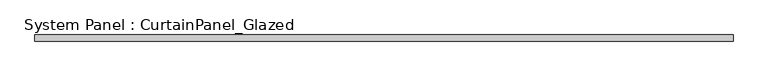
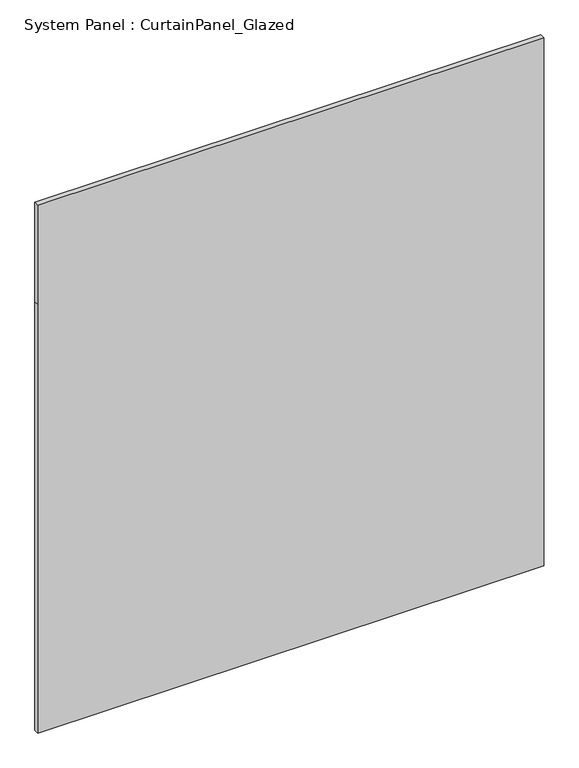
"""IFC4 building model written with IfcOpenShell, lengths in millimetres: plate geometry, System Panel : CurtainPanel_Glazed."""

import ifcopenshell
import ifcopenshell.guid

model = None  # the IFC model being written
_history = None  # IfcOwnerHistory: only IFC2X3 demands one
_inside = {}  # id of a spatial element -> (the spatial element, [elements in it])
_under = {}  # id of a project, library or spatial element -> (it, [spatial elements below it])
_declared = {}  # id of a project -> (the project, [libraries it declares])
_typed = {}  # id of a type object -> (the type object, [elements of that type])
_made_of = {}  # id of a material, layer set ... -> (it, [elements and type objects made of it])


def new_model(schema):
    """Start an empty IFC model of exactly this schema.

    Asked for "IFC4X3", IfcOpenShell would pick the latest addendum, in which some entities
    have other attributes; the version numbers below select the first issue.
    IFC2X3 requires an IfcOwnerHistory on every rooted entity: one is made here for all.
    """
    global model, _history
    if schema == "IFC4X3":
        model = ifcopenshell.file(schema_version=(4, 3, 0, 0))
    else:
        model = ifcopenshell.file(schema=schema)
    _inside.clear()
    _under.clear()
    _declared.clear()
    _typed.clear()
    _made_of.clear()
    _history = None
    if model.schema == "IFC2X3":
        org = make("IfcOrganization", Name="unknown")
        user = make(
            "IfcPersonAndOrganization",
            ThePerson=make("IfcPerson", FamilyName="unknown"),
            TheOrganization=org,
        )
        app = make(
            "IfcApplication",
            ApplicationDeveloper=org,
            Version="unknown",
            ApplicationFullName="unknown",
            ApplicationIdentifier="unknown",
        )
        _history = make(
            "IfcOwnerHistory",
            OwningUser=user,
            OwningApplication=app,
            ChangeAction="ADDED",
            CreationDate=0,
        )
    return model


def make(cls, **values):
    """One entity of the class cls with the attributes given. An attribute that is None is left unset."""
    return model.create_entity(
        cls, **{name: value for name, value in values.items() if value is not None}
    )


def rooted(cls, **values):
    """An entity with a GlobalId (a new one), such as an element, a storey or a relation."""
    return make(cls, GlobalId=ifcopenshell.guid.new(), OwnerHistory=_history, **values)


def si_unit(unit_type, name, prefix=None):
    """IfcSIUnit, for example si_unit("LENGTHUNIT", "METRE", prefix="MILLI")."""
    return make("IfcSIUnit", UnitType=unit_type, Prefix=prefix, Name=name)


def assignment(units):
    """IfcUnitAssignment: the units of a project."""
    return None if units is None else make("IfcUnitAssignment", Units=units)


def point(xyz):
    """IfcCartesianPoint."""
    return None if xyz is None else make("IfcCartesianPoint", Coordinates=xyz)


def direction(xyz):
    """IfcDirection."""
    return None if xyz is None else make("IfcDirection", DirectionRatios=xyz)


def frame(location, z_axis=None, x_axis=None):
    """IfcAxis2Placement3D, a coordinate frame: its origin and axes. An axis left out is left unset."""
    return make(
        "IfcAxis2Placement3D",
        Location=point(location),
        Axis=direction(z_axis),
        RefDirection=direction(x_axis),
    )


def origin():
    """The frame at (0, 0, 0) with its axes left unset."""
    return frame((0.0, 0.0, 0.0))


def place(relative_to, where):
    """IfcLocalPlacement: puts the frame where relative to a parent placement (None: the world)."""
    return make(
        "IfcLocalPlacement", PlacementRelTo=relative_to, RelativePlacement=where
    )


def context(
    kind, dimensions, precision=None, world=None, true_north=None, identifier=None
):
    """IfcGeometricRepresentationContext, for example the 3D "Model" context."""
    return make(
        "IfcGeometricRepresentationContext",
        ContextIdentifier=identifier,
        ContextType=kind,
        CoordinateSpaceDimension=dimensions,
        Precision=precision,
        WorldCoordinateSystem=world,
        TrueNorth=true_north,
    )


def project(units=None, contexts=None):
    """IfcProject with its units and contexts."""
    return rooted(
        "IfcProject",
        Name="project",
        RepresentationContexts=contexts,
        UnitsInContext=assignment(units),
    )


def spatial(cls, under=None, at=None, **own):
    """A site, building, storey or space (cls), placed at a placement, below another one or the project."""
    s = rooted(cls, ObjectPlacement=at, **own)
    if under is not None:
        _under.setdefault(under.id(), (under, []))[1].append(s)
    return s


def polyline(points):
    """IfcPolyline through the points."""
    return make("IfcPolyline", Points=[point(p) for p in points])


def outline(outer, holes=None, kind="AREA"):
    """IfcArbitraryClosedProfileDef: a profile drawn as a closed curve; with holes, ...WithVoids."""
    if holes is None:
        return make("IfcArbitraryClosedProfileDef", ProfileType=kind, OuterCurve=outer)
    return make(
        "IfcArbitraryProfileDefWithVoids",
        ProfileType=kind,
        OuterCurve=outer,
        InnerCurves=holes,
    )


def extrude(swept, where, along, depth):
    """IfcExtrudedAreaSolid: the profile swept, set in the frame where, extruded along a direction by depth."""
    return make(
        "IfcExtrudedAreaSolid",
        SweptArea=swept,
        Position=where,
        ExtrudedDirection=direction(along),
        Depth=depth,
    )


def shape(context_of_items, identifier, shape_type, items):
    """IfcShapeRepresentation: the items that make up one representation, for example the "Body"."""
    return make(
        "IfcShapeRepresentation",
        ContextOfItems=context_of_items,
        RepresentationIdentifier=identifier,
        RepresentationType=shape_type,
        Items=items,
    )


def source(mapping_origin, context_of_items, identifier, shape_type, items):
    """IfcRepresentationMap: a shape defined once, which mapped items show again and again."""
    return make(
        "IfcRepresentationMap",
        MappingOrigin=mapping_origin,
        MappedRepresentation=shape(context_of_items, identifier, shape_type, items),
    )


def transform(
    local_origin,
    x_axis=None,
    y_axis=None,
    z_axis=None,
    scale=None,
    scale2=None,
    scale3=None,
    uniform=True,
):
    """IfcCartesianTransformationOperator3D, or its non-uniform kind. x_axis, y_axis, z_axis: its Axis1, 2, 3."""
    if uniform:
        return make(
            "IfcCartesianTransformationOperator3D",
            Axis1=direction(x_axis),
            Axis2=direction(y_axis),
            LocalOrigin=point(local_origin),
            Scale=scale,
            Axis3=direction(z_axis),
        )
    return make(
        "IfcCartesianTransformationOperator3DnonUniform",
        Axis1=direction(x_axis),
        Axis2=direction(y_axis),
        LocalOrigin=point(local_origin),
        Scale=scale,
        Axis3=direction(z_axis),
        Scale2=scale2,
        Scale3=scale3,
    )


def mapped(mapping_source, mapping_target):
    """IfcMappedItem: shows the shape of a source again, moved by a transform."""
    return make(
        "IfcMappedItem", MappingSource=mapping_source, MappingTarget=mapping_target
    )


def made_of(thing, what):
    """Note that an element or type object is made of a material, layer set ...; save() writes the relation."""
    if what is not None:
        _made_of.setdefault(what.id(), (what, []))[1].append(thing)
    return thing


def element(
    cls,
    number,
    at=None,
    inside=None,
    cuts=None,
    type_object=None,
    material=None,
    context=None,
    identifier="Body",
    shape_type=None,
    held_by="IfcProductDefinitionShape",
    body=None,
    shapes=None,
    **own,
):
    """One element of the class cls, such as IfcWall. Its Tag is "e" and its number.

    at: its placement. inside: the storey or other place that contains it. cuts: it is an
    opening in that element (IfcRelVoidsElement). A single representation is given by context,
    identifier, shape_type and body (its items); several are given by shapes. held_by: the class
    of the entity that holds the representations. save() writes the other relations.
    """
    e = rooted(cls, Tag="e%d" % number, ObjectPlacement=at, **own)
    if body is not None:
        shapes = [shape(context, identifier, shape_type, body)]
    if shapes is not None:
        e.Representation = make(held_by, Representations=shapes)
    if inside is not None:
        _inside.setdefault(inside.id(), (inside, []))[1].append(e)
    if cuts is not None:
        rooted(
            "IfcRelVoidsElement", RelatingBuildingElement=cuts, RelatedOpeningElement=e
        )
    if type_object is not None:
        _typed.setdefault(type_object.id(), (type_object, []))[1].append(e)
    return made_of(e, material)


def aggregate(whole, parts):
    """IfcRelAggregates: a whole, such as a stair, and the parts it consists of."""
    return rooted("IfcRelAggregates", RelatingObject=whole, RelatedObjects=parts)


def save(model, path):
    """Write the relations noted so far, then the file.

    IfcRelAggregates (storeys below a building ...), IfcRelContainedInSpatialStructure (elements
    in a storey), IfcRelDefinesByType, IfcRelAssociatesMaterial and IfcRelDeclares: one each for
    every whole, place, type object, material and project.
    """
    for whole, parts in _under.values():
        aggregate(whole, parts)
    for where, things in _inside.values():
        rooted(
            "IfcRelContainedInSpatialStructure",
            RelatedElements=things,
            RelatingStructure=where,
        )
    for kind, things in _typed.values():
        rooted("IfcRelDefinesByType", RelatedObjects=things, RelatingType=kind)
    for what, things in _made_of.values():
        rooted("IfcRelAssociatesMaterial", RelatedObjects=things, RelatingMaterial=what)
    for by, libraries in _declared.values():
        rooted("IfcRelDeclares", RelatingContext=by, RelatedDefinitions=libraries)
    model.write(path)


def system_panel_curtainpanel_glazed_61bd8d65(model_context):
    return source(origin(), model_context, "Body", "SweptSolid", [
        extrude(outline(polyline([(0.0, -1325.9999999), (0.0, 1325.9999999), (2375.0, 1325.9999999), (2925.0, 1325.9999999), (2925.0, -1325.9999999), (2375.0, -1325.9999999), (0.0, -1325.9999999)])), frame((0.0, -12.5, 0.0), z_axis=(0.0, 1.0, 0.0), x_axis=(0.0, 0.0, 1.0)), (0.0, 0.0, 1.0), 25.0),
    ])


if __name__ == "__main__":
    model = new_model("IFC4")
    model_context = context("Model", 3, world=origin())
    ifc_project = project(units=[si_unit("LENGTHUNIT", "METRE", prefix="MILLI")], contexts=[model_context])
    site = spatial("IfcSite", under=ifc_project)
    building = spatial("IfcBuilding", under=site)
    placement = place(None, origin())
    system_panel_curtainpanel_glazed_shape = system_panel_curtainpanel_glazed_61bd8d65(model_context)
    element("IfcPlate", 1, ObjectType="System Panel : CurtainPanel_Glazed", at=placement, inside=building, context=model_context, shape_type="MappedRepresentation", body=[
        mapped(system_panel_curtainpanel_glazed_shape, transform((0.0, 0.0, 0.0), x_axis=(1.0, 0.0, 0.0), y_axis=(0.0, 1.0, 0.0), z_axis=(0.0, 0.0, 1.0))),
    ])
    save(model, "model.ifc")
